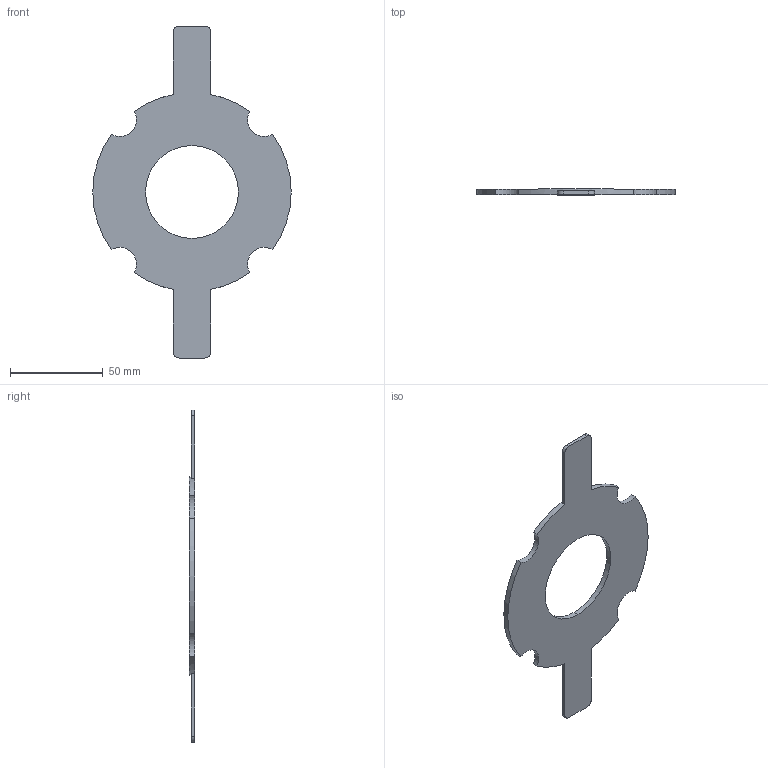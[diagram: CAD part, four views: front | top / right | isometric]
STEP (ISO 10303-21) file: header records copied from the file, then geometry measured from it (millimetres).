
FILE_DESCRIPTION (( 'STEP AP203' ), '1' );
FILE_NAME ('KP_7-63-54.step', '2011-08-08T12:04:37', ( '' ), ( '' ), 'SwSTEP 2.0', 'SolidWorks 2011', '' );
FILE_SCHEMA (( 'CONFIG_CONTROL_DESIGN' ));
Length unit declared in the file: millimetre
Products named in the file (1): KP_7-63-54
Bounding box: 107 x 3 x 179 mm (x, y, z)
Volume: 22822.1 mm3; surface area: 18017.6 mm2
Topology: 1 solids, 1 shells, 27 faces, 75 edges, 50 vertices
Faces by surface type: cylinder 17, plane 10
Entity records: 968 total; most frequent: DIRECTION 169, CARTESIAN_POINT 153, ORIENTED_EDGE 150, EDGE_CURVE 75, AXIS2_PLACEMENT_3D 66, VERTEX_POINT 50, CIRCLE 38, VECTOR 37
